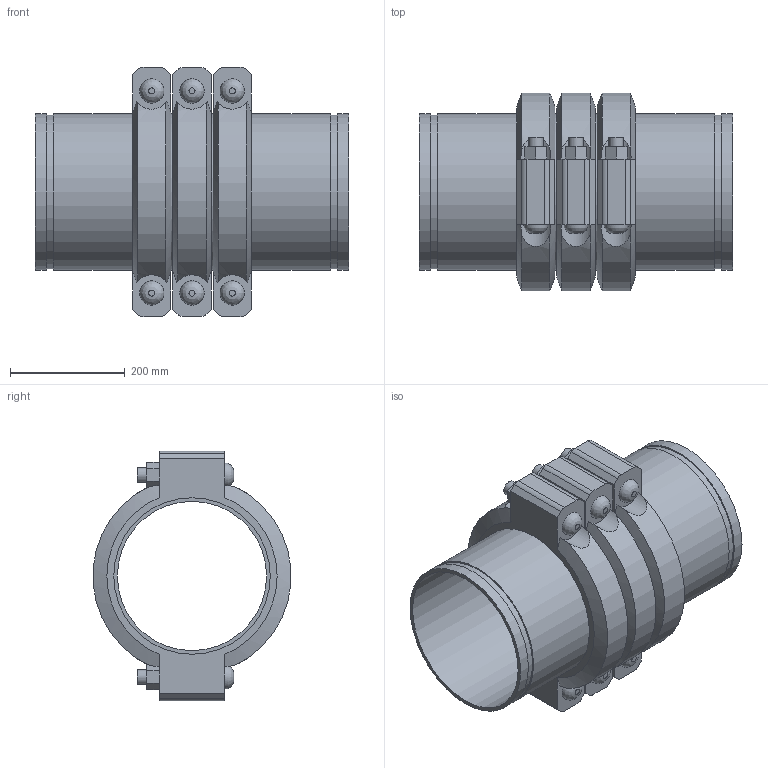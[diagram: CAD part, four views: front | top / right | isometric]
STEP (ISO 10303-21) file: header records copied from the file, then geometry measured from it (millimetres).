
FILE_DESCRIPTION(/* description */ ('VIC EXPANSION JOINT 3 COUPLINGS COMPRESSED STYLE 155 (OGS)','CAx-IF Rec.Pracs.---Representation and Presentation of Product Manufacturing Information (PMI)---4.0---2014-10-13'),/* implementation_level */ '2;1');
FILE_NAME(/* name */ 'C:\Users\kkamble\AppData\Roaming\Autodesk\ApplicationPlugins\Victaulic.Temp\A971\Victaulic_IPS_Expansion Joint_Compressed_3 Couplings_Style 155 (OGS)_10 (250).stp',/* time_stamp */ '2021-06-27T00:26:01+02:00',/* author */ ('kkamble'),/* organization */ ('Victaulic'),/* preprocessor_version */ 'ST-DEVELOPER v17.2',/* originating_system */ 'Autodesk Inventor 2019',/* authorisation */ '');
FILE_SCHEMA (('AP242_MANAGED_MODEL_BASED_3D_ENGINEERING_MIM_LF { 1 0 10303 442 1 1 4 }'));
Length unit declared in the file: inch
Products named in the file (4): 155-10.0; Nipple-10.0; Nipple-10.0_1; 077-3 Coup-10.0
Assembly tree (7 placements, depth 2):
  155-10.0
    Nipple-10.0  x2
    Nipple-10.0_1  x2
    077-3 Coup-10.0  x3
Bounding box: 546.1 x 344.9 x 435.1 mm (x, y, z)
Volume: 11459952.8 mm3; surface area: 1824246.6 mm2
Topology: 7 solids, 13 shells, 231 faces, 555 edges, 390 vertices
Faces by surface type: plane 132, cylinder 81, cone 12, bspline 6
Full cylindrical faces by diameter (mm): 25.4 x12, 27.432 x6, 260.35 x4, 264.16 x3, 268.275 x8, 273.05 x18
Entity records: 3050 total; most frequent: CARTESIAN_POINT 671, DIRECTION 469, ORIENTED_EDGE 410, EDGE_CURVE 205, AXIS2_PLACEMENT_3D 190, VERTEX_POINT 146, EDGE_LOOP 111, CIRCLE 96
